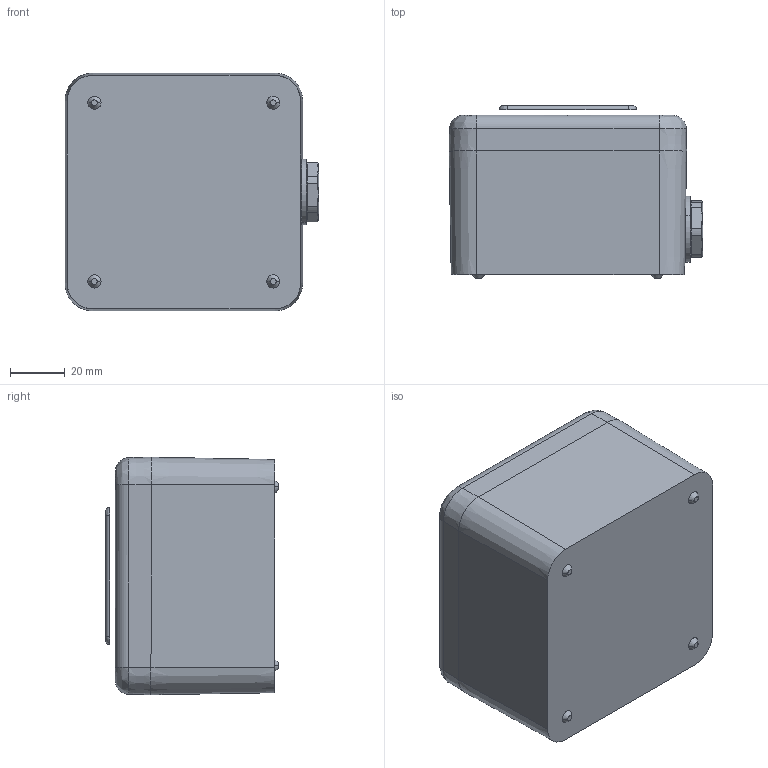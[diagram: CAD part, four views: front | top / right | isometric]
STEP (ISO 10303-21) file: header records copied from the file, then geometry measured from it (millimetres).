
FILE_DESCRIPTION((''),'2;1');
FILE_NAME('PRT0008','2020-04-15T14:55:09',('WJPreisc'),('Rockwell Automation'),'CREO PARAMETRIC BY PTC INC, 2017380','CREO PARAMETRIC BY PTC INC, 2017380','');
FILE_SCHEMA(('CONFIG_CONTROL_DESIGN'));
Length unit declared in the file: millimetre
Products named in the file (1): PRT0008
Bounding box: 92.33 x 63.1 x 86.4 mm (x, y, z)
Surface area: 38097.5 mm2 (no closed solid volume)
Topology: 0 solids, 15 shells, 89 faces, 316 edges, 228 vertices
Faces by surface type: plane 27, cone 22, cylinder 18, bspline 12, torus 4, revolution 4, sphere 2
Entity records: 4089 total; most frequent: CARTESIAN_POINT 1578, DIRECTION 484, ORIENTED_EDGE 459, EDGE_CURVE 316, VERTEX_POINT 228, AXIS2_PLACEMENT_3D 190, CIRCLE 117, B_SPLINE_CURVE_WITH_KNOTS 103
